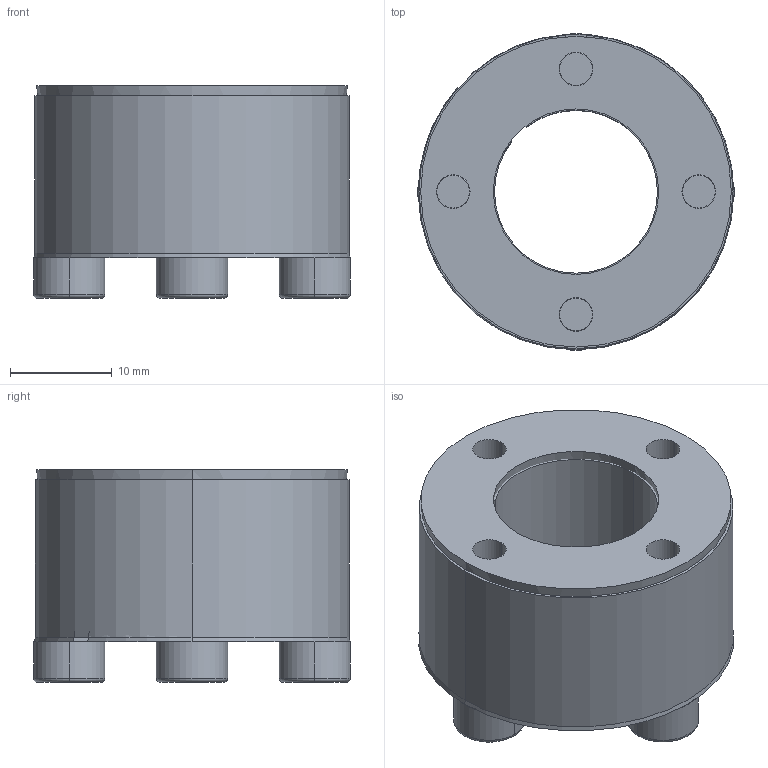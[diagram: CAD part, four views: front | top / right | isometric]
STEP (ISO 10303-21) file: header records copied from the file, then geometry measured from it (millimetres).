
FILE_DESCRIPTION (( 'STEP AP214' ), '1' );
FILE_NAME ('CONEX-L-16x32-CN_720-001.STEP', '2014-07-02T06:53:49', ( 'Pc' ), ( '' ), 'SwSTEP 2.0', 'SolidWorks 2013', '' );
FILE_SCHEMA (( 'AUTOMOTIVE_DESIGN' ));
Length unit declared in the file: millimetre
Products named in the file (1): CONEX-L-16x32-CN_720-001
Bounding box: 31.12 x 31.12 x 20.89 mm (x, y, z)
Volume: 7971.6 mm3; surface area: 9704.8 mm2
Topology: 7 solids, 7 shells, 166 faces, 396 edges, 240 vertices
Faces by surface type: plane 71, cylinder 47, cone 32, torus 16
Entity records: 6738 total; most frequent: DIRECTION 894, CARTESIAN_POINT 853, ORIENTED_EDGE 776, EDGE_CURVE 388, AXIS2_PLACEMENT_3D 353, VERTEX_POINT 240, EDGE_LOOP 192, VECTOR 188
